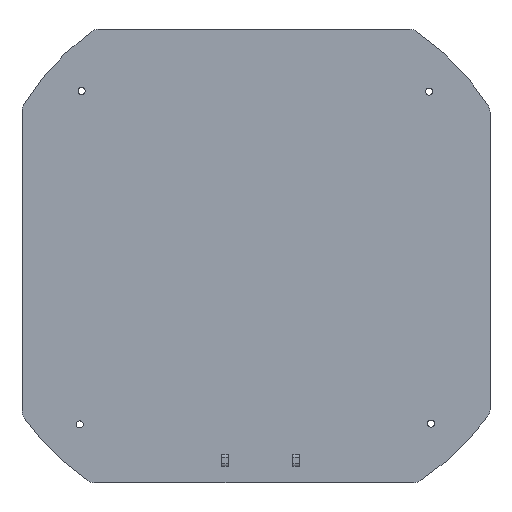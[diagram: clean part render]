
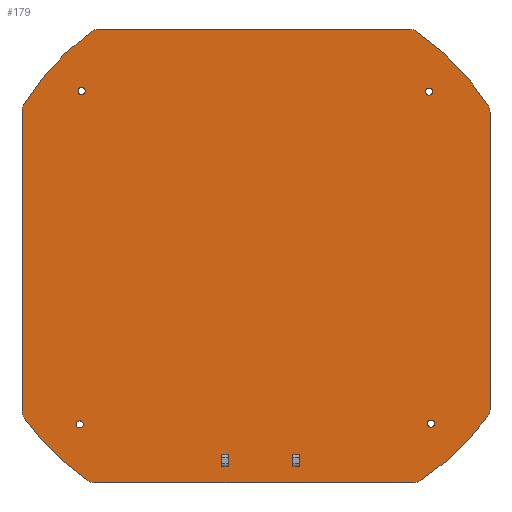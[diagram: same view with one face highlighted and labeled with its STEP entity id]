
A CAD part, top view. The second image highlights one B-rep face of the part: STEP entity #179.
In plain terms, the highlighted planar face has unit normal (0, 0, 1).
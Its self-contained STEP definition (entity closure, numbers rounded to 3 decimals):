
#179=ADVANCED_FACE('',(#315,#316,#317,#318,#319,#320,#321),#231,.F.);
#231=PLANE('',#983);
#247=CIRCLE('',#967,1.45);
#248=CIRCLE('',#968,5.);
#249=CIRCLE('',#969,101.39);
#250=CIRCLE('',#970,5.);
#251=CIRCLE('',#971,5.);
#252=CIRCLE('',#972,103.39);
#253=CIRCLE('',#973,5.);
#254=CIRCLE('',#974,5.);
#255=CIRCLE('',#975,108.39);
#256=CIRCLE('',#976,5.);
#257=CIRCLE('',#977,5.);
#258=CIRCLE('',#978,106.39);
#259=CIRCLE('',#979,5.);
#260=CIRCLE('',#980,1.45);
#261=CIRCLE('',#981,1.45);
#262=CIRCLE('',#982,1.45);
#315=FACE_BOUND('',#335,.T.);
#316=FACE_BOUND('',#336,.T.);
#317=FACE_BOUND('',#337,.T.);
#318=FACE_BOUND('',#338,.T.);
#319=FACE_BOUND('',#339,.T.);
#320=FACE_BOUND('',#340,.T.);
#321=FACE_BOUND('',#341,.T.);
#335=EDGE_LOOP('',(#401,#402,#403,#404));
#336=EDGE_LOOP('',(#405));
#337=EDGE_LOOP('',(#406,#407,#408,#409,#410,#411,#412,#413,#414,#415,#416,
#417,#418,#419,#420,#421));
#338=EDGE_LOOP('',(#422));
#339=EDGE_LOOP('',(#423));
#340=EDGE_LOOP('',(#424));
#341=EDGE_LOOP('',(#425,#426,#427,#428));
#401=ORIENTED_EDGE('',*,*,#729,.T.);
#402=ORIENTED_EDGE('',*,*,#730,.T.);
#403=ORIENTED_EDGE('',*,*,#731,.T.);
#404=ORIENTED_EDGE('',*,*,#732,.T.);
#405=ORIENTED_EDGE('',*,*,#733,.F.);
#406=ORIENTED_EDGE('',*,*,#734,.F.);
#407=ORIENTED_EDGE('',*,*,#735,.F.);
#408=ORIENTED_EDGE('',*,*,#736,.F.);
#409=ORIENTED_EDGE('',*,*,#737,.F.);
#410=ORIENTED_EDGE('',*,*,#738,.F.);
#411=ORIENTED_EDGE('',*,*,#739,.F.);
#412=ORIENTED_EDGE('',*,*,#740,.F.);
#413=ORIENTED_EDGE('',*,*,#741,.F.);
#414=ORIENTED_EDGE('',*,*,#742,.F.);
#415=ORIENTED_EDGE('',*,*,#743,.F.);
#416=ORIENTED_EDGE('',*,*,#744,.F.);
#417=ORIENTED_EDGE('',*,*,#745,.F.);
#418=ORIENTED_EDGE('',*,*,#746,.F.);
#419=ORIENTED_EDGE('',*,*,#747,.F.);
#420=ORIENTED_EDGE('',*,*,#748,.F.);
#421=ORIENTED_EDGE('',*,*,#749,.F.);
#422=ORIENTED_EDGE('',*,*,#750,.T.);
#423=ORIENTED_EDGE('',*,*,#751,.T.);
#424=ORIENTED_EDGE('',*,*,#752,.T.);
#425=ORIENTED_EDGE('',*,*,#753,.F.);
#426=ORIENTED_EDGE('',*,*,#754,.F.);
#427=ORIENTED_EDGE('',*,*,#755,.F.);
#428=ORIENTED_EDGE('',*,*,#756,.F.);
#649=VERTEX_POINT('',#1390);
#650=VERTEX_POINT('',#1391);
#651=VERTEX_POINT('',#1393);
#652=VERTEX_POINT('',#1395);
#653=VERTEX_POINT('',#1398);
#654=VERTEX_POINT('',#1400);
#655=VERTEX_POINT('',#1401);
#656=VERTEX_POINT('',#1403);
#657=VERTEX_POINT('',#1405);
#658=VERTEX_POINT('',#1407);
#659=VERTEX_POINT('',#1409);
#660=VERTEX_POINT('',#1411);
#661=VERTEX_POINT('',#1413);
#662=VERTEX_POINT('',#1415);
#663=VERTEX_POINT('',#1417);
#664=VERTEX_POINT('',#1419);
#665=VERTEX_POINT('',#1421);
#666=VERTEX_POINT('',#1423);
#667=VERTEX_POINT('',#1425);
#668=VERTEX_POINT('',#1427);
#669=VERTEX_POINT('',#1429);
#670=VERTEX_POINT('',#1432);
#671=VERTEX_POINT('',#1434);
#672=VERTEX_POINT('',#1436);
#673=VERTEX_POINT('',#1438);
#674=VERTEX_POINT('',#1439);
#675=VERTEX_POINT('',#1441);
#676=VERTEX_POINT('',#1443);
#729=EDGE_CURVE('',#649,#650,#853,.T.);
#730=EDGE_CURVE('',#650,#651,#854,.T.);
#731=EDGE_CURVE('',#651,#652,#855,.T.);
#732=EDGE_CURVE('',#652,#649,#856,.T.);
#733=EDGE_CURVE('',#653,#653,#247,.T.);
#734=EDGE_CURVE('',#654,#655,#857,.T.);
#735=EDGE_CURVE('',#656,#654,#248,.T.);
#736=EDGE_CURVE('',#657,#656,#249,.T.);
#737=EDGE_CURVE('',#658,#657,#250,.T.);
#738=EDGE_CURVE('',#659,#658,#858,.T.);
#739=EDGE_CURVE('',#660,#659,#251,.T.);
#740=EDGE_CURVE('',#661,#660,#252,.T.);
#741=EDGE_CURVE('',#662,#661,#253,.T.);
#742=EDGE_CURVE('',#663,#662,#859,.T.);
#743=EDGE_CURVE('',#664,#663,#254,.T.);
#744=EDGE_CURVE('',#665,#664,#255,.T.);
#745=EDGE_CURVE('',#666,#665,#256,.T.);
#746=EDGE_CURVE('',#667,#666,#860,.T.);
#747=EDGE_CURVE('',#668,#667,#257,.T.);
#748=EDGE_CURVE('',#669,#668,#258,.T.);
#749=EDGE_CURVE('',#655,#669,#259,.T.);
#750=EDGE_CURVE('',#670,#670,#260,.T.);
#751=EDGE_CURVE('',#671,#671,#261,.T.);
#752=EDGE_CURVE('',#672,#672,#262,.T.);
#753=EDGE_CURVE('',#673,#674,#861,.T.);
#754=EDGE_CURVE('',#675,#673,#862,.T.);
#755=EDGE_CURVE('',#676,#675,#863,.T.);
#756=EDGE_CURVE('',#674,#676,#864,.T.);
#853=LINE('',#1389,#909);
#854=LINE('',#1392,#910);
#855=LINE('',#1394,#911);
#856=LINE('',#1396,#912);
#857=LINE('',#1399,#913);
#858=LINE('',#1408,#914);
#859=LINE('',#1416,#915);
#860=LINE('',#1424,#916);
#861=LINE('',#1437,#917);
#862=LINE('',#1440,#918);
#863=LINE('',#1442,#919);
#864=LINE('',#1444,#920);
#909=VECTOR('',#1091,1.);
#910=VECTOR('',#1092,1.);
#911=VECTOR('',#1093,1.);
#912=VECTOR('',#1094,1.);
#913=VECTOR('',#1097,1.);
#914=VECTOR('',#1104,1.);
#915=VECTOR('',#1111,1.);
#916=VECTOR('',#1118,1.);
#917=VECTOR('',#1131,1.);
#918=VECTOR('',#1132,1.);
#919=VECTOR('',#1133,1.);
#920=VECTOR('',#1134,1.);
#967=AXIS2_PLACEMENT_3D('',#1397,#1095,#1096);
#968=AXIS2_PLACEMENT_3D('',#1402,#1098,#1099);
#969=AXIS2_PLACEMENT_3D('',#1404,#1100,#1101);
#970=AXIS2_PLACEMENT_3D('',#1406,#1102,#1103);
#971=AXIS2_PLACEMENT_3D('',#1410,#1105,#1106);
#972=AXIS2_PLACEMENT_3D('',#1412,#1107,#1108);
#973=AXIS2_PLACEMENT_3D('',#1414,#1109,#1110);
#974=AXIS2_PLACEMENT_3D('',#1418,#1112,#1113);
#975=AXIS2_PLACEMENT_3D('',#1420,#1114,#1115);
#976=AXIS2_PLACEMENT_3D('',#1422,#1116,#1117);
#977=AXIS2_PLACEMENT_3D('',#1426,#1119,#1120);
#978=AXIS2_PLACEMENT_3D('',#1428,#1121,#1122);
#979=AXIS2_PLACEMENT_3D('',#1430,#1123,#1124);
#980=AXIS2_PLACEMENT_3D('',#1431,#1125,#1126);
#981=AXIS2_PLACEMENT_3D('',#1433,#1127,#1128);
#982=AXIS2_PLACEMENT_3D('',#1435,#1129,#1130);
#983=AXIS2_PLACEMENT_3D('',#1445,#1135,#1136);
#1091=DIRECTION('',(1.,0.,0.));
#1092=DIRECTION('',(0.,-1.,0.));
#1093=DIRECTION('',(-1.,0.,0.));
#1094=DIRECTION('',(0.,1.,0.));
#1095=DIRECTION('',(0.,0.,1.));
#1096=DIRECTION('',(-1.,0.,0.));
#1097=DIRECTION('',(0.,-1.,0.));
#1098=DIRECTION('',(0.,0.,-1.));
#1099=DIRECTION('',(-1.,0.,0.));
#1100=DIRECTION('',(0.,0.,-1.));
#1101=DIRECTION('',(-1.,0.,0.));
#1102=DIRECTION('',(0.,0.,-1.));
#1103=DIRECTION('',(-1.,0.,0.));
#1104=DIRECTION('',(1.,0.,0.));
#1105=DIRECTION('',(0.,0.,-1.));
#1106=DIRECTION('',(-1.,0.,0.));
#1107=DIRECTION('',(0.,0.,-1.));
#1108=DIRECTION('',(-1.,0.,0.));
#1109=DIRECTION('',(0.,0.,-1.));
#1110=DIRECTION('',(-1.,0.,0.));
#1111=DIRECTION('',(0.,1.,0.));
#1112=DIRECTION('',(0.,0.,-1.));
#1113=DIRECTION('',(-1.,0.,0.));
#1114=DIRECTION('',(0.,0.,-1.));
#1115=DIRECTION('',(-1.,0.,0.));
#1116=DIRECTION('',(0.,0.,-1.));
#1117=DIRECTION('',(-1.,0.,0.));
#1118=DIRECTION('',(-1.,0.,0.));
#1119=DIRECTION('',(0.,0.,-1.));
#1120=DIRECTION('',(-1.,0.,0.));
#1121=DIRECTION('',(0.,0.,-1.));
#1122=DIRECTION('',(-1.,0.,0.));
#1123=DIRECTION('',(0.,0.,-1.));
#1124=DIRECTION('',(-1.,0.,0.));
#1125=DIRECTION('',(0.,0.,-1.));
#1126=DIRECTION('',(-1.,0.,0.));
#1127=DIRECTION('',(0.,0.,-1.));
#1128=DIRECTION('',(-1.,0.,0.));
#1129=DIRECTION('',(0.,0.,-1.));
#1130=DIRECTION('',(-1.,0.,0.));
#1131=DIRECTION('',(0.,-1.,0.));
#1132=DIRECTION('',(-1.,0.,0.));
#1133=DIRECTION('',(0.,1.,0.));
#1134=DIRECTION('',(1.,0.,0.));
#1135=DIRECTION('',(0.,0.,-1.));
#1136=DIRECTION('',(-1.,0.,0.));
#1389=CARTESIAN_POINT('',(178.488,-10.3,2.5));
#1390=CARTESIAN_POINT('',(103.263,-10.3,2.5));
#1391=CARTESIAN_POINT('',(106.063,-10.3,2.5));
#1392=CARTESIAN_POINT('',(106.063,8.106,2.5));
#1393=CARTESIAN_POINT('',(106.063,-15.1,2.5));
#1394=CARTESIAN_POINT('',(178.488,-15.1,2.5));
#1395=CARTESIAN_POINT('',(103.263,-15.1,2.5));
#1396=CARTESIAN_POINT('',(103.263,8.106,2.5));
#1397=CARTESIAN_POINT('',(158.734,137.369,2.5));
#1398=CARTESIAN_POINT('',(157.284,137.369,2.5));
#1399=CARTESIAN_POINT('',(183.488,128.986,2.5));
#1400=CARTESIAN_POINT('',(183.488,128.986,2.5));
#1401=CARTESIAN_POINT('',(183.488,8.106,2.5));
#1402=CARTESIAN_POINT('',(178.488,128.986,2.5));
#1403=CARTESIAN_POINT('',(182.73,131.634,2.5));
#1404=CARTESIAN_POINT('',(96.726,77.938,2.5));
#1405=CARTESIAN_POINT('',(153.653,161.837,2.5));
#1406=CARTESIAN_POINT('',(150.846,157.7,2.5));
#1407=CARTESIAN_POINT('',(150.846,162.7,2.5));
#1408=CARTESIAN_POINT('',(92.788,162.7,2.5));
#1409=CARTESIAN_POINT('',(24.244,162.7,2.5));
#1410=CARTESIAN_POINT('',(24.244,157.7,2.5));
#1411=CARTESIAN_POINT('',(21.317,161.753,2.5));
#1412=CARTESIAN_POINT('',(81.851,77.938,2.5));
#1413=CARTESIAN_POINT('',(-6.168,132.179,2.5));
#1414=CARTESIAN_POINT('',(-1.912,129.556,2.5));
#1415=CARTESIAN_POINT('',(-6.912,129.556,2.5));
#1416=CARTESIAN_POINT('',(-6.912,7.455,2.5));
#1417=CARTESIAN_POINT('',(-6.912,7.455,2.5));
#1418=CARTESIAN_POINT('',(-1.912,7.455,2.5));
#1419=CARTESIAN_POINT('',(-5.962,4.524,2.5));
#1420=CARTESIAN_POINT('',(81.851,68.063,2.5));
#1421=CARTESIAN_POINT('',(19.787,-20.799,2.5));
#1422=CARTESIAN_POINT('',(22.65,-16.7,2.5));
#1423=CARTESIAN_POINT('',(22.65,-21.7,2.5));
#1424=CARTESIAN_POINT('',(152.361,-21.7,2.5));
#1425=CARTESIAN_POINT('',(152.361,-21.7,2.5));
#1426=CARTESIAN_POINT('',(152.361,-16.7,2.5));
#1427=CARTESIAN_POINT('',(155.104,-20.88,2.5));
#1428=CARTESIAN_POINT('',(96.726,68.062,2.5));
#1429=CARTESIAN_POINT('',(182.521,5.149,2.5));
#1430=CARTESIAN_POINT('',(178.488,8.106,2.5));
#1431=CARTESIAN_POINT('',(17.343,137.631,2.5));
#1432=CARTESIAN_POINT('',(15.893,137.631,2.5));
#1433=CARTESIAN_POINT('',(16.565,1.985,2.5));
#1434=CARTESIAN_POINT('',(15.115,1.985,2.5));
#1435=CARTESIAN_POINT('',(159.463,2.298,2.5));
#1436=CARTESIAN_POINT('',(158.013,2.298,2.5));
#1437=CARTESIAN_POINT('',(74.263,8.106,2.5));
#1438=CARTESIAN_POINT('',(74.263,-10.3,2.5));
#1439=CARTESIAN_POINT('',(74.263,-15.1,2.5));
#1440=CARTESIAN_POINT('',(178.488,-10.3,2.5));
#1441=CARTESIAN_POINT('',(77.063,-10.3,2.5));
#1442=CARTESIAN_POINT('',(77.063,8.106,2.5));
#1443=CARTESIAN_POINT('',(77.063,-15.1,2.5));
#1444=CARTESIAN_POINT('',(178.488,-15.1,2.5));
#1445=CARTESIAN_POINT('',(178.488,8.106,2.5));
